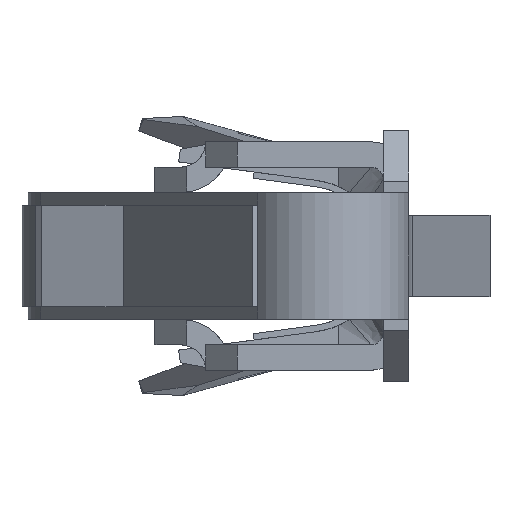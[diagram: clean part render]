
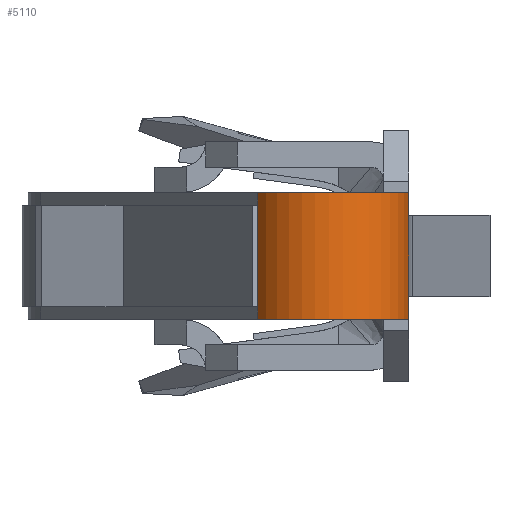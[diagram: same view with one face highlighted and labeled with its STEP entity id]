
A CAD part, left-side view. The second image highlights one B-rep face of the part: STEP entity #5110.
In plain terms, the highlighted cylindrical face has radius 0.65 mm (diameter 1.3 mm), a partial arc.
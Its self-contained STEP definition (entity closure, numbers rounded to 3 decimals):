
#1251=DIRECTION('',(0.,0.,1.));
#1252=VECTOR('',#1251,1.);
#1253=CARTESIAN_POINT('',(-9.75,0.,-0.5));
#1254=LINE('',#1253,#1252);
#1440=CARTESIAN_POINT('',(-9.75,0.65,-0.5));
#1441=DIRECTION('',(0.,0.,1.));
#1442=DIRECTION('',(-0.552,0.834,0.));
#1443=AXIS2_PLACEMENT_3D('',#1440,#1441,#1442);
#1453=CARTESIAN_POINT('',(-9.75,0.65,0.5));
#1454=DIRECTION('',(0.,0.,1.));
#1455=DIRECTION('',(-0.552,0.834,0.));
#1456=AXIS2_PLACEMENT_3D('',#1453,#1454,#1455);
#1527=DIRECTION('',(0.,0.,1.));
#1528=VECTOR('',#1527,0.8);
#1529=CARTESIAN_POINT('',(-10.109,1.192,-0.4));
#1530=LINE('',#1529,#1528);
#1531=DIRECTION('',(0.,0.,1.));
#1532=VECTOR('',#1531,0.1);
#1533=CARTESIAN_POINT('',(-10.109,1.192,0.4));
#1534=LINE('',#1533,#1532);
#1535=DIRECTION('',(0.,0.,1.));
#1536=VECTOR('',#1535,0.1);
#1537=CARTESIAN_POINT('',(-10.109,1.192,-0.5));
#1538=LINE('',#1537,#1536);
#2464=CARTESIAN_POINT('',(-10.109,1.192,-0.5));
#2465=VERTEX_POINT('',#2464);
#2488=CARTESIAN_POINT('',(-10.109,1.192,0.5));
#2489=VERTEX_POINT('',#2488);
#2514=CARTESIAN_POINT('',(-9.75,0.,-0.5));
#2516=VERTEX_POINT('',#2514);
#2518=CARTESIAN_POINT('',(-9.75,0.,0.5));
#2520=VERTEX_POINT('',#2518);
#2929=CARTESIAN_POINT('',(-10.109,1.192,-0.4));
#2930=CARTESIAN_POINT('',(-10.109,1.192,0.4));
#2931=VERTEX_POINT('',#2929);
#2932=VERTEX_POINT('',#2930);
#5094=CARTESIAN_POINT('',(-9.75,0.65,-0.5));
#5095=DIRECTION('',(0.,0.,1.));
#5096=DIRECTION('',(1.,0.,0.));
#5097=AXIS2_PLACEMENT_3D('',#5094,#5095,#5096);
#5098=CYLINDRICAL_SURFACE('',#5097,0.65);
#5100=ORIENTED_EDGE('',*,*,#5099,.T.);
#5102=ORIENTED_EDGE('',*,*,#5101,.T.);
#5103=ORIENTED_EDGE('',*,*,#5015,.T.);
#5104=ORIENTED_EDGE('',*,*,#4691,.F.);
#5105=ORIENTED_EDGE('',*,*,#4989,.F.);
#5107=ORIENTED_EDGE('',*,*,#5106,.T.);
#5108=EDGE_LOOP('',(#5100,#5102,#5103,#5104,#5105,#5107));
#5109=FACE_OUTER_BOUND('',#5108,.F.);
#5110=ADVANCED_FACE('',(#5109),#5098,.T.);
#1444=CIRCLE('',#1443,0.65);
#1457=CIRCLE('',#1456,0.65);
#4691=EDGE_CURVE('',#2516,#2520,#1254,.T.);
#4989=EDGE_CURVE('',#2465,#2516,#1444,.T.);
#5015=EDGE_CURVE('',#2489,#2520,#1457,.T.);
#5099=EDGE_CURVE('',#2931,#2932,#1530,.T.);
#5101=EDGE_CURVE('',#2932,#2489,#1534,.T.);
#5106=EDGE_CURVE('',#2465,#2931,#1538,.T.);
